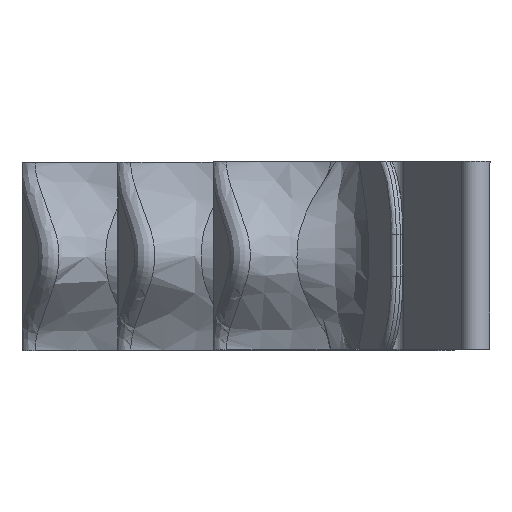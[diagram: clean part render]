
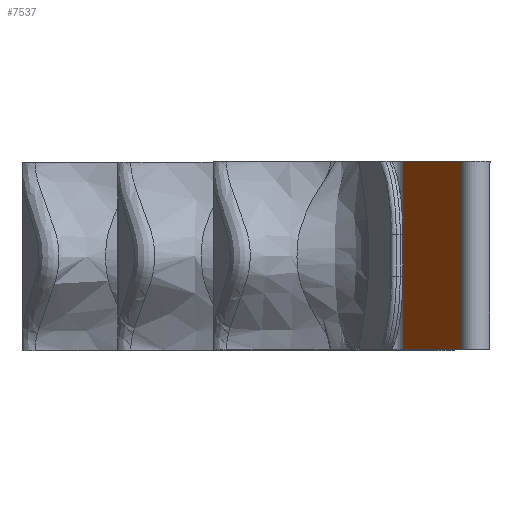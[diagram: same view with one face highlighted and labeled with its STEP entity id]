
A CAD part, top view. The second image highlights one B-rep face of the part: STEP entity #7537.
In plain terms, the highlighted planar face has unit normal (-0.952, 0, 0.305).
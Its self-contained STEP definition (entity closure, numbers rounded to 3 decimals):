
#1351=FACE_OUTER_BOUND('',#1775,.T.);
#1775=EDGE_LOOP('',(#6666,#6667,#6668,#6669));
#2259=LINE('',#14976,#2749);
#2283=LINE('',#15245,#2773);
#2285=LINE('',#15250,#2775);
#2286=LINE('',#15251,#2776);
#2749=VECTOR('',#8325,10.);
#2773=VECTOR('',#8385,10.);
#2775=VECTOR('',#8391,10.);
#2776=VECTOR('',#8392,10.);
#3455=VERTEX_POINT('',#14973);
#3456=VERTEX_POINT('',#14975);
#3512=VERTEX_POINT('',#15243);
#3513=VERTEX_POINT('',#15249);
#4532=EDGE_CURVE('',#3455,#3456,#2259,.T.);
#4590=EDGE_CURVE('',#3512,#3455,#2283,.T.);
#4592=EDGE_CURVE('',#3513,#3512,#2285,.T.);
#4593=EDGE_CURVE('',#3456,#3513,#2286,.T.);
#6666=ORIENTED_EDGE('',*,*,#4590,.F.);
#6667=ORIENTED_EDGE('',*,*,#4592,.F.);
#6668=ORIENTED_EDGE('',*,*,#4593,.F.);
#6669=ORIENTED_EDGE('',*,*,#4532,.F.);
#7193=PLANE('',#7727);
#7537=ADVANCED_FACE('',(#1351),#7193,.T.);
#7727=AXIS2_PLACEMENT_3D('',#15248,#8389,#8390);
#8325=DIRECTION('',(-0.305,0.,-0.952));
#8385=DIRECTION('',(0.,-1.,0.));
#8389=DIRECTION('center_axis',(-0.952,0.,0.305));
#8390=DIRECTION('ref_axis',(0.305,0.,0.952));
#8391=DIRECTION('',(0.305,0.,0.952));
#8392=DIRECTION('',(0.,1.,0.));
#14973=CARTESIAN_POINT('',(67.92,-22.5,219.824));
#14975=CARTESIAN_POINT('',(54.043,-22.5,176.548));
#14976=CARTESIAN_POINT('',(91.599,-22.5,293.674));
#15243=CARTESIAN_POINT('',(67.92,22.5,219.824));
#15245=CARTESIAN_POINT('',(67.92,0.,219.824));
#15248=CARTESIAN_POINT('Origin',(0.,0.,8.));
#15249=CARTESIAN_POINT('',(54.043,22.5,176.548));
#15250=CARTESIAN_POINT('',(56.048,22.5,182.799));
#15251=CARTESIAN_POINT('',(54.043,-11.25,176.548));
